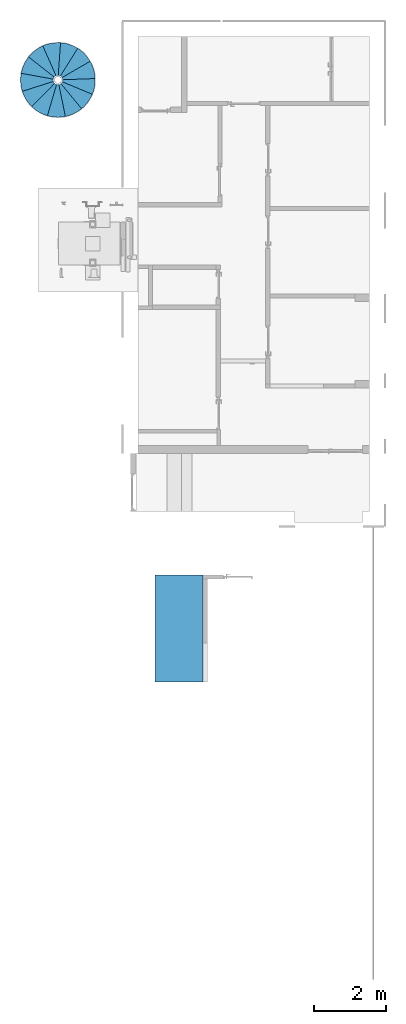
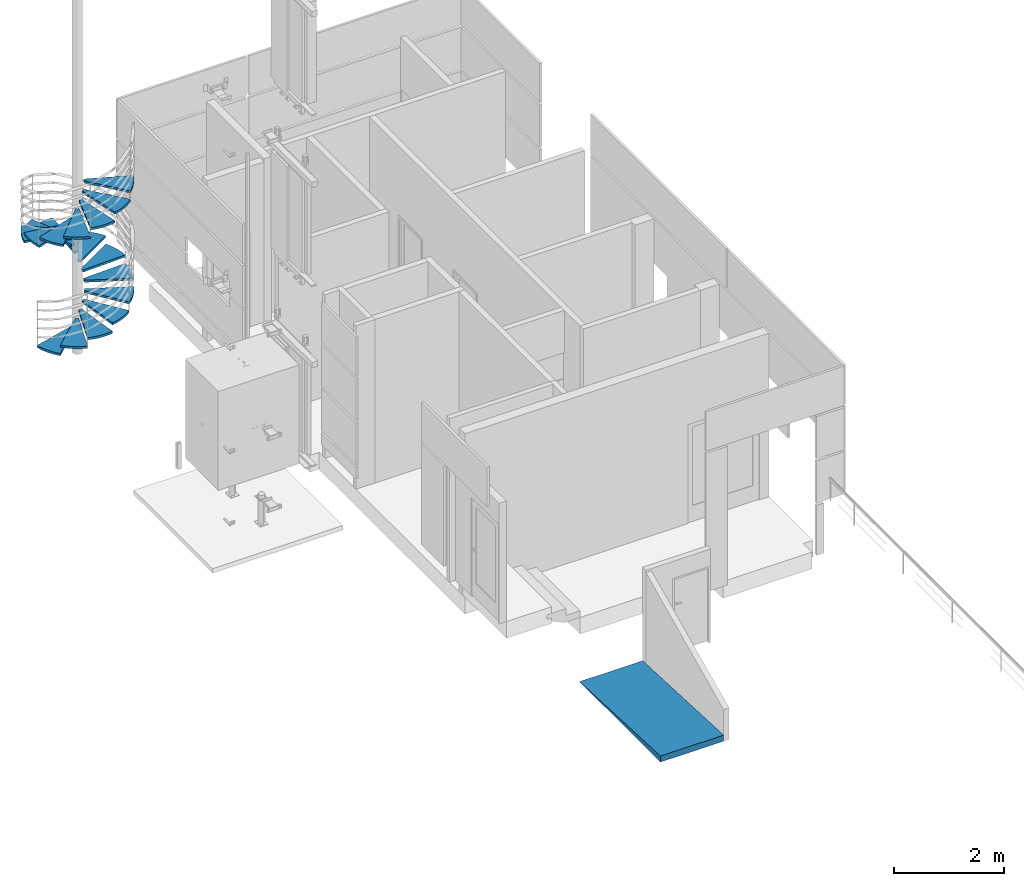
# One storey, part 4 of 15: 1 ramp flight, 1 stair flight, 2 elements without a shape of their own.
"""IFC2X3 building model written with IfcOpenShell, lengths in millimetres."""

from ifc_helpers import new_model, entity, si_unit, converted_unit, derived_unit, direction, frame, frame_2d, origin, place, context, subcontext, project, spatial, polyline, circle_curve, parameter, trimmed, segment, composite_curve, outline, extrude, material, element, aggregate, save


model = new_model("IFC2X3")

# Units and contexts
model_context = context("Model", 3, precision=0.01, world=origin(), true_north=direction((6.12303176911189e-17, 1.0)))
body_context = subcontext(model_context, "Body", "Model", "MODEL_VIEW")
ifc_project = project(units=[si_unit("LENGTHUNIT", "METRE", prefix="MILLI"), si_unit("AREAUNIT", "SQUARE_METRE"), si_unit("VOLUMEUNIT", "CUBIC_METRE"), converted_unit("PLANEANGLEUNIT", "DEGREE", entity("IfcRatioMeasure", 0.0174532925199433), si_unit("PLANEANGLEUNIT", "RADIAN"), dimensions=[0, 0, 0, 0, 0, 0, 0]), si_unit("MASSUNIT", "GRAM", prefix="KILO"), derived_unit("MASSDENSITYUNIT", [(si_unit("MASSUNIT", "GRAM", prefix="KILO"), 1), (si_unit("LENGTHUNIT", "METRE"), -3)]), si_unit("TIMEUNIT", "SECOND"), si_unit("FREQUENCYUNIT", "HERTZ"), si_unit("THERMODYNAMICTEMPERATUREUNIT", "DEGREE_CELSIUS"), derived_unit("THERMALTRANSMITTANCEUNIT", [(si_unit("MASSUNIT", "GRAM", prefix="KILO"), 1), (si_unit("THERMODYNAMICTEMPERATUREUNIT", "KELVIN"), -1), (si_unit("TIMEUNIT", "SECOND"), -3)]), derived_unit("VOLUMETRICFLOWRATEUNIT", [(si_unit("LENGTHUNIT", "METRE"), 3), (si_unit("TIMEUNIT", "SECOND"), -1)]), si_unit("ELECTRICCURRENTUNIT", "AMPERE"), si_unit("ELECTRICVOLTAGEUNIT", "VOLT"), si_unit("POWERUNIT", "WATT"), si_unit("FORCEUNIT", "NEWTON", prefix="KILO"), si_unit("ILLUMINANCEUNIT", "LUX"), si_unit("LUMINOUSFLUXUNIT", "LUMEN"), si_unit("LUMINOUSINTENSITYUNIT", "CANDELA"), derived_unit("USERDEFINED", [(si_unit("MASSUNIT", "GRAM", prefix="KILO"), -1), (si_unit("LENGTHUNIT", "METRE"), -2), (si_unit("TIMEUNIT", "SECOND"), 3), (si_unit("LUMINOUSFLUXUNIT", "LUMEN"), 1)]), derived_unit("LINEARVELOCITYUNIT", [(si_unit("LENGTHUNIT", "METRE"), 1), (si_unit("TIMEUNIT", "SECOND"), -1)]), si_unit("PRESSUREUNIT", "PASCAL"), derived_unit("USERDEFINED", [(si_unit("LENGTHUNIT", "METRE"), -2), (si_unit("MASSUNIT", "GRAM", prefix="KILO"), 1), (si_unit("TIMEUNIT", "SECOND"), -2)])], contexts=[model_context])

# Site, building, storey
site_placement = place(None, frame((-151.875543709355, 2715.0, 0.0)))
site = spatial("IfcSite", under=ifc_project, at=site_placement, Name="Surface", CompositionType="ELEMENT")
building_placement = place(site_placement, origin())
building = spatial("IfcBuilding", under=site, at=building_placement, CompositionType="ELEMENT")
storey_placement = place(building_placement, frame((0.0, 0.0, -135.0)))
storey = spatial("IfcBuildingStorey", under=building, at=storey_placement, Name="uus 1 korrus", CompositionType="ELEMENT", Elevation=-134.99999999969)

# Stair, stair flight
stair_placement = place(storey_placement, origin())
stair = element("IfcStair", 1, at=stair_placement, inside=storey, Name="Assembled Stair:Stair", ObjectType="Assembled Stair:Keerdtrepp", ShapeType="NOTDEFINED")
ifc_material = material(Name="Metal - Galvanized")
stair_flight_placement = place(stair_placement, origin())
stair_flight = element("IfcStairFlight", 2, at=stair_flight_placement, material=ifc_material, Name="Assembled Stair:Stair:1372757 Run 1", ObjectType="Assembled Stair:Keerdtrepp", NumberOfRiser=18, NumberOfTreads=18, RiserHeight=0.614725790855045, TreadLength=0.918635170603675, context=body_context, shape_type="SweptSolid", body=[
    extrude(outline(composite_curve([segment(polyline([(372.242752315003, -230.481106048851), (-208.159403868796, 457.365778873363)]), True, "CONTINUOUS"), segment(trimmed(circle_curve(frame_2d((456.078619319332, -329.83676720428), x_axis=(1.0, 0.0)), 1030.0), [parameter(130.157524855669)], [parameter(158.093450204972)], True, "PARAMETER"), True, "CONTINUOUS"), segment(polyline([(-499.548798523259, 54.4498943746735), (335.465450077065, -281.334567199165)]), True, "CONTINUOUS"), segment(trimmed(circle_curve(frame_2d((456.078619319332, -329.83676720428), x_axis=(1.0, 0.0)), 130.0), [parameter(130.157524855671)], [parameter(158.093450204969)], True, "PARAMETER"), False, "CONTINUOUS")], self_intersect=False)), frame((29301.8113970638, 24845.4441754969, 587.368421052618), z_axis=(0.0, 0.0, -1.0), x_axis=(0.991753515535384, -0.1281599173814, 0.0)), (0.0, 0.0, -1.0), 50.0),
    extrude(outline(composite_curve([segment(polyline([(372.242752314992, -230.481106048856), (-208.159403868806, 457.365778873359)]), True, "CONTINUOUS"), segment(trimmed(circle_curve(frame_2d((456.078619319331, -329.836767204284), x_axis=(1.0, 0.0)), 1030.0), [parameter(130.157524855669)], [parameter(158.093450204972)], True, "PARAMETER"), True, "CONTINUOUS"), segment(polyline([(-499.548798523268, 54.4498943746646), (335.465450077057, -281.334567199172)]), True, "CONTINUOUS"), segment(trimmed(circle_curve(frame_2d((456.078619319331, -329.836767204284), x_axis=(1.0, 0.0)), 130.0), [parameter(130.157524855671)], [parameter(158.093450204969)], True, "PARAMETER"), False, "CONTINUOUS")], self_intersect=False)), frame((29485.3104642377, 24645.0440832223, 774.736842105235), z_axis=(0.0, 0.0, -1.0), x_axis=(0.936227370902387, 0.351394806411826, 0.0)), (0.0, 0.0, -1.0), 50.0),
    extrude(outline(composite_curve([segment(polyline([(372.242752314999, -230.481106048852), (-208.159403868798, 457.36577887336)]), True, "CONTINUOUS"), segment(trimmed(circle_curve(frame_2d((456.078619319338, -329.83676720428), x_axis=(1.0, 0.0)), 1030.0), [parameter(130.157524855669)], [parameter(158.093450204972)], True, "PARAMETER"), True, "CONTINUOUS"), segment(polyline([(-499.548798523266, 54.4498943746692), (335.465450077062, -281.33456719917)]), True, "CONTINUOUS"), segment(trimmed(circle_curve(frame_2d((456.078619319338, -329.83676720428), x_axis=(1.0, 0.0)), 130.0), [parameter(130.157524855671)], [parameter(158.093450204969)], True, "PARAMETER"), False, "CONTINUOUS")], self_intersect=False)), frame((29741.310970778, 24553.9625522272, 962.105263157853), z_axis=(0.0, 0.0, -1.0), x_axis=(0.662507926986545, 0.749054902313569, 0.0)), (0.0, 0.0, -1.0), 50.0),
    extrude(outline(composite_curve([segment(polyline([(372.242752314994, -230.481106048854), (-208.1594038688, 457.365778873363)]), True, "CONTINUOUS"), segment(trimmed(circle_curve(frame_2d((456.078619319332, -329.836767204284), x_axis=(1.0, 0.0)), 1030.0), [parameter(130.157524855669)], [parameter(158.093450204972)], True, "PARAMETER"), True, "CONTINUOUS"), segment(polyline([(-499.548798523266, 54.4498943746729), (335.465450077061, -281.334567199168)]), True, "CONTINUOUS"), segment(trimmed(circle_curve(frame_2d((456.078619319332, -329.836767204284), x_axis=(1.0, 0.0)), 130.0), [parameter(130.157524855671)], [parameter(158.093450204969)], True, "PARAMETER"), False, "CONTINUOUS")], self_intersect=False)), frame((30010.1504918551, 24593.4266694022, 1149.47368421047), z_axis=(0.0, 0.0, -1.0), x_axis=(0.234387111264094, 0.972143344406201, 0.0)), (0.0, 0.0, -1.0), 50.0),
    extrude(outline(composite_curve([segment(polyline([(372.242752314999, -230.481106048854), (-208.159403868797, 457.365778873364)]), True, "CONTINUOUS"), segment(trimmed(circle_curve(frame_2d((456.078619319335, -329.836767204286), x_axis=(1.0, 0.0)), 1030.0), [parameter(130.157524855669)], [parameter(158.093450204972)], True, "PARAMETER"), True, "CONTINUOUS"), segment(polyline([(-499.548798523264, 54.4498943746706), (335.465450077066, -281.334567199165)]), True, "CONTINUOUS"), segment(trimmed(circle_curve(frame_2d((456.078619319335, -329.836767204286), x_axis=(1.0, 0.0)), 130.0), [parameter(130.157524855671)], [parameter(158.093450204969)], True, "PARAMETER"), False, "CONTINUOUS")], self_intersect=False)), frame((30229.1743947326, 24754.2390899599, 1336.84210526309), z_axis=(0.0, 0.0, -1.0), x_axis=(-0.248359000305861, 0.968668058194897, 0.0)), (0.0, 0.0, -1.0), 50.0),
    extrude(outline(composite_curve([segment(polyline([(372.242752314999, -230.481106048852), (-208.159403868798, 457.365778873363)]), True, "CONTINUOUS"), segment(trimmed(circle_curve(frame_2d((456.078619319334, -329.836767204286), x_axis=(1.0, 0.0)), 1030.0), [parameter(130.157524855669)], [parameter(158.093450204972)], True, "PARAMETER"), True, "CONTINUOUS"), segment(polyline([(-499.548798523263, 54.4498943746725), (335.465450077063, -281.334567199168)]), True, "CONTINUOUS"), segment(trimmed(circle_curve(frame_2d((456.078619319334, -329.836767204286), x_axis=(1.0, 0.0)), 130.0), [parameter(130.157524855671)], [parameter(158.093450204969)], True, "PARAMETER"), False, "CONTINUOUS")], self_intersect=False)), frame((30347.3378697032, 24998.9215327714, 1524.21052631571), z_axis=(0.0, 0.0, -1.0), x_axis=(-0.673223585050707, 0.739438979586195, 0.0)), (0.0, 0.0, -1.0), 50.0),
    extrude(outline(composite_curve([segment(polyline([(372.242752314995, -230.481106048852), (-208.1594038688, 457.365778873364)]), True, "CONTINUOUS"), segment(trimmed(circle_curve(frame_2d((456.078619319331, -329.836767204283), x_axis=(1.0, 0.0)), 1030.0), [parameter(130.157524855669)], [parameter(158.093450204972)], True, "PARAMETER"), True, "CONTINUOUS"), segment(polyline([(-499.548798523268, 54.4498943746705), (335.465450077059, -281.334567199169)]), True, "CONTINUOUS"), segment(trimmed(circle_curve(frame_2d((456.078619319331, -329.836767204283), x_axis=(1.0, 0.0)), 130.0), [parameter(130.157524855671)], [parameter(158.093450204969)], True, "PARAMETER"), False, "CONTINUOUS")], self_intersect=False)), frame((30337.1022234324, 25270.4493143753, 1711.57894736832), z_axis=(0.0, 0.0, -1.0), x_axis=(-0.941189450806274, 0.337879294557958, 0.0)), (0.0, 0.0, -1.0), 50.0),
    extrude(outline(composite_curve([segment(polyline([(372.242752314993, -230.481106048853), (-208.159403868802, 457.365778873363)]), True, "CONTINUOUS"), segment(trimmed(circle_curve(frame_2d((456.07861931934, -329.836767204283), x_axis=(1.0, 0.0)), 1030.0), [parameter(130.157524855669)], [parameter(158.093450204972)], True, "PARAMETER"), True, "CONTINUOUS"), segment(polyline([(-499.548798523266, 54.4498943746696), (335.465450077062, -281.33456719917)]), True, "CONTINUOUS"), segment(trimmed(circle_curve(frame_2d((456.07861931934, -329.836767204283), x_axis=(1.0, 0.0)), 130.0), [parameter(130.157524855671)], [parameter(158.093450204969)], True, "PARAMETER"), False, "CONTINUOUS")], self_intersect=False)), frame((30200.8529335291, 25505.5412870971, 1898.94736842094), z_axis=(0.0, 0.0, -1.0), x_axis=(-0.989805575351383, -0.142425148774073, 0.0)), (0.0, 0.0, -1.0), 50.0),
    extrude(outline(composite_curve([segment(polyline([(372.242752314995, -230.481106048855), (-208.1594038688, 457.365778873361)]), True, "CONTINUOUS"), segment(trimmed(circle_curve(frame_2d((456.07861931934, -329.836767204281), x_axis=(1.0, 0.0)), 1030.0), [parameter(130.157524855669)], [parameter(158.093450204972)], True, "PARAMETER"), True, "CONTINUOUS"), segment(polyline([(-499.548798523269, 54.4498943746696), (335.46545007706, -281.334567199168)]), True, "CONTINUOUS"), segment(trimmed(circle_curve(frame_2d((456.07861931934, -329.836767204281), x_axis=(1.0, 0.0)), 130.0), [parameter(130.157524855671)], [parameter(158.093450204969)], True, "PARAMETER"), False, "CONTINUOUS")], self_intersect=False)), frame((29970.3436989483, 25649.4078829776, 2086.31578947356), z_axis=(0.0, 0.0, -1.0), x_axis=(-0.80774168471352, -0.589536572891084, 0.0)), (0.0, 0.0, -1.0), 50.0),
    extrude(outline(composite_curve([segment(polyline([(372.242752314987, -230.481106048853), (-208.159403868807, 457.365778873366)]), True, "CONTINUOUS"), segment(trimmed(circle_curve(frame_2d((456.078619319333, -329.836767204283), x_axis=(1.0, 0.0)), 1030.0), [parameter(130.157524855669)], [parameter(158.093450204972)], True, "PARAMETER"), True, "CONTINUOUS"), segment(polyline([(-499.548798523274, 54.4498943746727), (335.465450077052, -281.334567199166)]), True, "CONTINUOUS"), segment(trimmed(circle_curve(frame_2d((456.078619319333, -329.836767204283), x_axis=(1.0, 0.0)), 130.0), [parameter(130.157524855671)], [parameter(158.093450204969)], True, "PARAMETER"), False, "CONTINUOUS")], self_intersect=False)), frame((29699.2960535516, 25668.5201450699, 2273.68421052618), z_axis=(0.0, 0.0, -1.0), x_axis=(-0.437428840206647, -0.899253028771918, 0.0)), (0.0, 0.0, -1.0), 50.0),
    extrude(outline(composite_curve([segment(polyline([(372.242752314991, -230.481106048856), (-208.159403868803, 457.365778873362)]), True, "CONTINUOUS"), segment(trimmed(circle_curve(frame_2d((456.078619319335, -329.836767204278), x_axis=(1.0, 0.0)), 1030.0), [parameter(130.157524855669)], [parameter(158.093450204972)], True, "PARAMETER"), True, "CONTINUOUS"), segment(polyline([(-499.548798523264, 54.4498943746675), (335.465450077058, -281.334567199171)]), True, "CONTINUOUS"), segment(trimmed(circle_curve(frame_2d((456.078619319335, -329.836767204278), x_axis=(1.0, 0.0)), 130.0), [parameter(130.157524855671)], [parameter(158.093450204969)], True, "PARAMETER"), False, "CONTINUOUS")], self_intersect=False)), frame((29450.8792464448, 25558.4238482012, 2461.05263157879), z_axis=(0.0, 0.0, -1.0), x_axis=(0.0348293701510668, -0.999393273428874, 0.0)), (0.0, 0.0, -1.0), 50.0),
    extrude(outline(composite_curve([segment(polyline([(372.242752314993, -230.481106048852), (-208.1594038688, 457.365778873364)]), True, "CONTINUOUS"), segment(trimmed(circle_curve(frame_2d((456.078619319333, -329.83676720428), x_axis=(1.0, 0.0)), 1030.0), [parameter(130.157524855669)], [parameter(158.093450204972)], True, "PARAMETER"), True, "CONTINUOUS"), segment(polyline([(-499.548798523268, 54.4498943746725), (335.465450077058, -281.334567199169)]), True, "CONTINUOUS"), segment(trimmed(circle_curve(frame_2d((456.078619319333, -329.83676720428), x_axis=(1.0, 0.0)), 130.0), [parameter(130.157524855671)], [parameter(158.093450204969)], True, "PARAMETER"), False, "CONTINUOUS")], self_intersect=False)), frame((29282.9882766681, 25344.7775823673, 2648.42105263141), z_axis=(0.0, 0.0, -1.0), x_axis=(0.498970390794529, -0.866619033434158, 0.0)), (0.0, 0.0, -1.0), 50.0),
    extrude(outline(composite_curve([segment(polyline([(372.242752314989, -230.48110604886), (-208.159403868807, 457.365778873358)]), True, "CONTINUOUS"), segment(trimmed(circle_curve(frame_2d((456.07861931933, -329.836767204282), x_axis=(1.0, 0.0)), 1030.0), [parameter(130.157524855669)], [parameter(158.093450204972)], True, "PARAMETER"), True, "CONTINUOUS"), segment(polyline([(-499.54879852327, 54.4498943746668), (335.465450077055, -281.334567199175)]), True, "CONTINUOUS"), segment(trimmed(circle_curve(frame_2d((456.07861931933, -329.836767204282), x_axis=(1.0, 0.0)), 130.0), [parameter(130.157524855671)], [parameter(158.093450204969)], True, "PARAMETER"), False, "CONTINUOUS")], self_intersect=False)), frame((29234.7511229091, 25077.3728673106, 2835.78947368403), z_axis=(0.0, 0.0, -1.0), x_axis=(0.846823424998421, -0.531874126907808, 0.0)), (0.0, 0.0, -1.0), 50.0),
    extrude(outline(composite_curve([segment(polyline([(372.242752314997, -230.481106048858), (-208.159403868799, 457.36577887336)]), True, "CONTINUOUS"), segment(trimmed(circle_curve(frame_2d((456.078619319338, -329.836767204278), x_axis=(1.0, 0.0)), 1030.0), [parameter(130.157524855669)], [parameter(158.093450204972)], True, "PARAMETER"), True, "CONTINUOUS"), segment(polyline([(-499.548798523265, 54.4498943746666), (335.465450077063, -281.334567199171)]), True, "CONTINUOUS"), segment(trimmed(circle_curve(frame_2d((456.078619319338, -329.836767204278), x_axis=(1.0, 0.0)), 130.0), [parameter(130.157524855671)], [parameter(158.093450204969)], True, "PARAMETER"), False, "CONTINUOUS")], self_intersect=False)), frame((29317.409737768, 24818.5299457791, 3023.15789473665), z_axis=(0.0, 0.0, -1.0), x_axis=(0.997319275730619, -0.0731728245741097, 0.0)), (0.0, 0.0, -1.0), 50.0),
    extrude(outline(composite_curve([segment(polyline([(372.242752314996, -230.481106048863), (-208.159403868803, 457.365778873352)]), True, "CONTINUOUS"), segment(trimmed(circle_curve(frame_2d((456.078619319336, -329.836767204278), x_axis=(1.0, 0.0)), 1030.0), [parameter(130.157524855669)], [parameter(158.093450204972)], True, "PARAMETER"), True, "CONTINUOUS"), segment(polyline([(-499.54879852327, 54.4498943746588), (335.465450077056, -281.334567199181)]), True, "CONTINUOUS"), segment(trimmed(circle_curve(frame_2d((456.078619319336, -329.836767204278), x_axis=(1.0, 0.0)), 130.0), [parameter(130.157524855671)], [parameter(158.093450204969)], True, "PARAMETER"), False, "CONTINUOUS")], self_intersect=False)), frame((29511.7000445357, 24628.5736841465, 3210.52631578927), z_axis=(0.0, 0.0, -1.0), x_axis=(0.915383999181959, 0.402581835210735, 0.0)), (0.0, 0.0, -1.0), 50.0),
    extrude(outline(composite_curve([segment(polyline([(372.242752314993, -230.481106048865), (-208.159403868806, 457.365778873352)]), True, "CONTINUOUS"), segment(trimmed(circle_curve(frame_2d((456.078619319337, -329.836767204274), x_axis=(1.0, 0.0)), 1030.0), [parameter(130.157524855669)], [parameter(158.093450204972)], True, "PARAMETER"), True, "CONTINUOUS"), segment(polyline([(-499.548798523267, 54.4498943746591), (335.465450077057, -281.33456719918)]), True, "CONTINUOUS"), segment(trimmed(circle_curve(frame_2d((456.078619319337, -329.836767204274), x_axis=(1.0, 0.0)), 130.0), [parameter(130.157524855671)], [parameter(158.093450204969)], True, "PARAMETER"), False, "CONTINUOUS")], self_intersect=False)), frame((29772.3415436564, 24551.7745072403, 3397.89473684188), z_axis=(0.0, 0.0, -1.0), x_axis=(0.620113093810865, 0.784512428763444, 0.0)), (0.0, 0.0, -1.0), 50.0),
    extrude(outline(composite_curve([segment(polyline([(372.242752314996, -230.481106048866), (-208.159403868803, 457.365778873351)]), True, "CONTINUOUS"), segment(trimmed(circle_curve(frame_2d((456.078619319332, -329.836767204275), x_axis=(1.0, 0.0)), 1030.0), [parameter(130.157524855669)], [parameter(158.093450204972)], True, "PARAMETER"), True, "CONTINUOUS"), segment(polyline([(-499.548798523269, 54.4498943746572), (335.465450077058, -281.334567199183)]), True, "CONTINUOUS"), segment(trimmed(circle_curve(frame_2d((456.078619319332, -329.836767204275), x_axis=(1.0, 0.0)), 130.0), [parameter(130.157524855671)], [parameter(158.093450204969)], True, "PARAMETER"), False, "CONTINUOUS")], self_intersect=False)), frame((30038.5901996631, 24606.0309152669, 3585.2631578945), z_axis=(0.0, 0.0, -1.0), x_axis=(0.180321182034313, 0.983607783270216, 0.0)), (0.0, 0.0, -1.0), 50.0),
    extrude(outline(composite_curve([segment(polyline([(372.242752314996, -230.481106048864), (-208.159403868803, 457.365778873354)]), True, "CONTINUOUS"), segment(trimmed(circle_curve(frame_2d((456.078619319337, -329.836767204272), x_axis=(1.0, 0.0)), 1030.0), [parameter(130.157524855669)], [parameter(158.093450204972)], True, "PARAMETER"), True, "CONTINUOUS"), segment(polyline([(-499.548798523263, 54.4498943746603), (335.465450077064, -281.334567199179)]), True, "CONTINUOUS"), segment(trimmed(circle_curve(frame_2d((456.078619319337, -329.836767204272), x_axis=(1.0, 0.0)), 130.0), [parameter(130.157524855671)], [parameter(158.093450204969)], True, "PARAMETER"), False, "CONTINUOUS")], self_intersect=False)), frame((30248.3951961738, 24778.6981329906, 3772.63157894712), z_axis=(0.0, 0.0, -1.0), x_axis=(-0.301495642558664, 0.953467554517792, 0.0)), (0.0, 0.0, -1.0), 50.0),
])
aggregate(stair, [stair_flight])

# Ramp, ramp flight
ramp_placement = place(storey_placement, origin())
ramp = element("IfcRamp", 3, at=ramp_placement, inside=storey, Name="Ramp:kaldtee trepikojas 126", ObjectType="Ramp:kaldtee trepikojas 126", ShapeType="NOTDEFINED")
ramp_flight_placement = place(ramp_placement, origin())
ramp_flight = element("IfcRampFlight", 4, at=ramp_flight_placement, Name="Ramp:kaldtee trepikojas 126:1", ObjectType="Ramp:kaldtee trepikojas 126", context=body_context, shape_type="SweptSolid", body=[
    extrude(outline(polyline([(-90.0, -984.351857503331), (45.0, -984.351857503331), (45.0, 1968.70371500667), (-90.0, -984.351857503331)])), frame((32471.6162682, 9481.29628499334, 45.0), z_axis=(1.0, 0.0, 0.0), x_axis=(0.0, 0.0, -1.0)), (0.0, 0.0, 1.0), 1330.68448937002),
])
aggregate(ramp, [ramp_flight])

save(model, "model.ifc")
